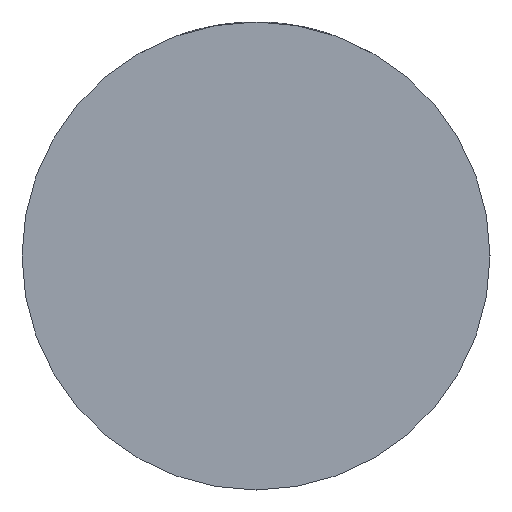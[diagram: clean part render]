
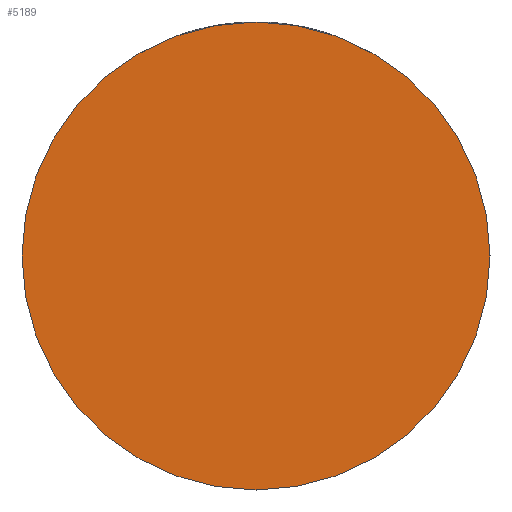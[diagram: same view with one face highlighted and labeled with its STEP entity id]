
A CAD part, front view. The second image highlights one B-rep face of the part: STEP entity #5189.
In plain terms, the highlighted planar face has unit normal (0, -1, 0).
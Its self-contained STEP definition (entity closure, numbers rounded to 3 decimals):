
#245 = FACE_OUTER_BOUND ( 'NONE', #1018, .T. ) ;
#334 = ORIENTED_EDGE ( 'NONE', *, *, #4915, .F. ) ;
#546 = CARTESIAN_POINT ( 'NONE',  ( 0., -21., 0. ) ) ;
#692 = DIRECTION ( 'NONE',  ( 0., -1., 0. ) ) ;
#754 = CARTESIAN_POINT ( 'NONE',  ( 34., -21., 0. ) ) ;
#829 = DIRECTION ( 'NONE',  ( 0., 1., 0. ) ) ;
#1018 = EDGE_LOOP ( 'NONE', ( #3301, #334 ) ) ;
#1480 = CIRCLE ( 'NONE', #4800, 34. ) ;
#1581 = EDGE_CURVE ( 'NONE', #4399, #2516, #1480, .T. ) ;
#1827 = CARTESIAN_POINT ( 'NONE',  ( -34., -21., 0. ) ) ;
#2254 = CARTESIAN_POINT ( 'NONE',  ( 0., -21., 0. ) ) ;
#2516 = VERTEX_POINT ( 'NONE', #754 ) ;
#2615 = AXIS2_PLACEMENT_3D ( 'NONE', #4512, #829, #5330 ) ;
#2662 = PLANE ( 'NONE',  #4731 ) ;
#3301 = ORIENTED_EDGE ( 'NONE', *, *, #1581, .F. ) ;
#3450 = DIRECTION ( 'NONE',  ( 0., 1., 0. ) ) ;
#3857 = CIRCLE ( 'NONE', #2615, 34. ) ;
#3868 = DIRECTION ( 'NONE',  ( -1., 0., 0. ) ) ;
#4399 = VERTEX_POINT ( 'NONE', #1827 ) ;
#4512 = CARTESIAN_POINT ( 'NONE',  ( 0., -21., 0. ) ) ;
#4731 = AXIS2_PLACEMENT_3D ( 'NONE', #2254, #692, #5191 ) ;
#4800 = AXIS2_PLACEMENT_3D ( 'NONE', #546, #3450, #3868 ) ;
#4915 = EDGE_CURVE ( 'NONE', #2516, #4399, #3857, .T. ) ;
#5189 = ADVANCED_FACE ( 'NONE', ( #245 ), #2662, .T. ) ;
#5191 = DIRECTION ( 'NONE',  ( 1., 0., 0. ) ) ;
#5330 = DIRECTION ( 'NONE',  ( -1., 0., 0. ) ) ;
